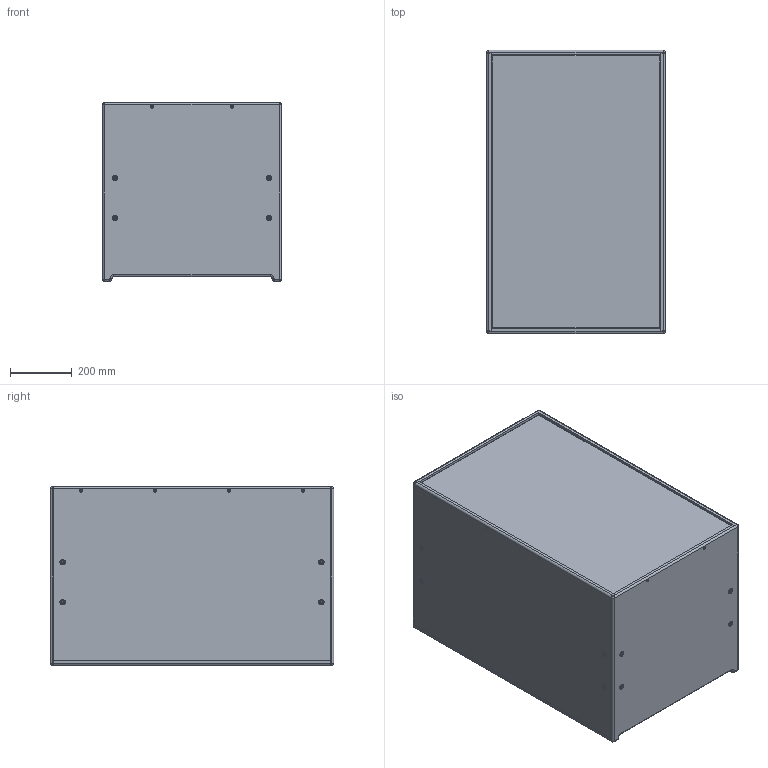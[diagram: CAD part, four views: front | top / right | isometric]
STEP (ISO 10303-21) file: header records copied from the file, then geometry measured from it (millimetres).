
FILE_DESCRIPTION (( 'STEP AP203' ), '1' );
FILE_NAME ('PS1F.STEP', '2021-07-06T10:40:54', ( '' ), ( '' ), 'SwSTEP 2.0', 'SolidWorks 2009', '' );
FILE_SCHEMA (( 'CONFIG_CONTROL_DESIGN' ));
Products named in the file (18): G1225 Rückwandleiste; G1225 Deckel; PS1F; G1225 Boden; ASF PS-1xov komplett; G1225 Seite R; G1225 Rückwand; G1225 Seite L; Socket Countersunk Head Screw_ISO_ISO 10642 - M4 x 8 --- 8N; Socket Countersunk Head Screw_ISO_ISO 10642 - M3 x 8 --- 8N; Baugruppe Platine 2x NL4MPXX; ASF PS1xov; SpeakOn NL4MPXX; Montageblech 2x NL4MP; Faston PCB Tab 6.3x0.8; ASF Platine 2x NL4; m10_flansch_doppelt_multirigg; G1224 Frontgitter blank
Assembly tree (54 placements, depth 4):
  PS1F
    m10_flansch_doppelt_multirigg  x8
    G1225 Boden
    ASF PS-1xov komplett
      Socket Countersunk Head Screw_ISO_ISO 10642 - M4 x 8 --- 8N  x17
      Socket Countersunk Head Screw_ISO_ISO 10642 - M3 x 8 --- 8N  x10
      ASF PS1xov
      Baugruppe Platine 2x NL4MPXX
        SpeakOn NL4MPXX  x2
        Montageblech 2x NL4MP
        Faston PCB Tab 6.3x0.8  x4
        ASF Platine 2x NL4
    G1225 Rückwandleiste  x2
    G1224 Frontgitter blank
    G1225 Seite R
    G1225 Rückwand
    G1225 Deckel
    G1225 Seite L
Bounding box: 580 x 920 x 580 mm (x, y, z)
Volume: 32883492.9 mm3; surface area: 6009467.2 mm2
Topology: 50 solids, 65 shells, 4742 faces, 12322 edges, 7601 vertices
Faces by surface type: plane 1726, cylinder 1232, bspline 996, cone 404, torus 222, sphere 162
Entity records: 94223 total; most frequent: CARTESIAN_POINT 35066, ORIENTED_EDGE 12200, DIRECTION 10946, EDGE_CURVE 6137, VERTEX_POINT 3873, AXIS2_PLACEMENT_3D 3863, LINE 3220, VECTOR 3220
